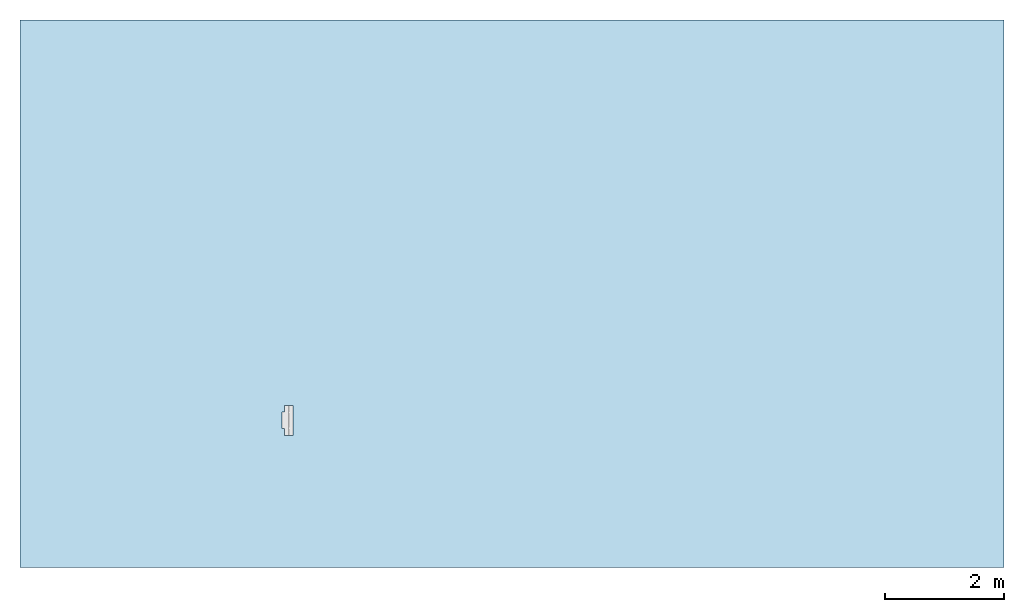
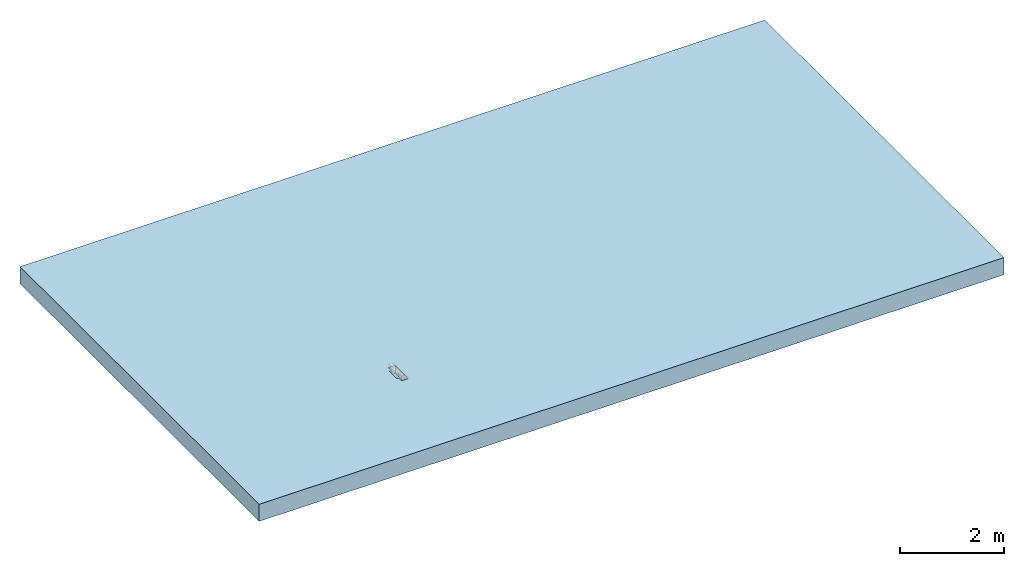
# One storey, part 1 of 2: 1 slab, 1 opening.
"""IFC2X3 building model written with IfcOpenShell, lengths in millimetres."""

from ifc_helpers import new_model, entity, si_unit, converted_unit, direction, frame, frame_2d, origin, place, context, subcontext, project, spatial, rectangle, extrude, faceted_brep, material, layer, layer_set, layer_usage, element, save


model = new_model("IFC2X3")

# Units and contexts
model_context = context("Model", 3, precision=1e-06, world=origin(), true_north=direction((2.0, 6.12303176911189e-17, 1.0)))
context_of_model = context(None, 3, precision=1e-06, world=origin(), true_north=direction((2.0, 6.12303176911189e-17, 1.0)))
body_context = subcontext(model_context, "Body", "Model", "MODEL_VIEW")
ifc_project = project(units=[si_unit("LENGTHUNIT", "METRE", prefix="MILLI"), si_unit("AREAUNIT", "SQUARE_METRE", prefix="MILLI"), si_unit("VOLUMEUNIT", "CUBIC_METRE", prefix="MILLI"), converted_unit("PLANEANGLEUNIT", "DEGREE", entity("IfcRatioMeasure", 0.0174532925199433), si_unit("PLANEANGLEUNIT", "RADIAN"), dimensions=[0, 0, 0, 0, 0, 0, 0]), si_unit("TIMEUNIT", "SECOND")], contexts=[model_context, context_of_model])

# Site, building, storey
site_placement = place(None, origin())
site = spatial("IfcSite", under=ifc_project, at=site_placement, Name="Default", CompositionType="ELEMENT")
building_placement = place(site_placement, origin())
building = spatial("IfcBuilding", under=site, at=building_placement, CompositionType="ELEMENT")
storey_placement = place(building_placement, origin())
storey = spatial("IfcBuildingStorey", under=building, at=storey_placement, Name="Level 1", CompositionType="ELEMENT", Elevation=0.0)

# Slab, opening
ifc_material = material(Name="Plant")
ifc_layer = layer(ifc_material, 400.0)
ifc_layer_set = layer_set([ifc_layer], Name="Floor:Generic Floor - 400mm")
ifc_layer_usage = layer_usage(ifc_layer_set, "AXIS3", "POSITIVE", 0.0)
slab_placement = place(storey_placement, frame((-17967.0691536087, -3738.31688706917, -400.0)))
slab = element("IfcSlab", 1, at=slab_placement, inside=storey, material=ifc_layer_usage, Name="Floor:Generic Floor - 400mm", ObjectType="Floor:Generic Floor - 400mm", PredefinedType="FLOOR", context=body_context, shape_type="SweptSolid", body=[
    extrude(rectangle(XDim=9180.0, YDim=16500.0, at=frame_2d((0.0, 0.0), x_axis=(0.0, -1.0))), frame((8250.0, 4590.0, 400.0), z_axis=(0.0, 0.0, -1.0), x_axis=(-1.0, 0.0, 0.0)), (0.0, 0.0, 1.0), 400.0),
])
opening_placement = place(slab_placement, frame((4390.17853291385, 2216.25782532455, 220.0)))
element("IfcOpeningElement", 2, at=opening_placement, cuts=slab, ObjectType="Recess", context=body_context, shape_type="Brep", body=[
    faceted_brep([(41.5400418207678, 500.0, 0.0), (41.5400418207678, 500.0, 180.0), (41.5400418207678, 390.350941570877, 180.0), (41.5400418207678, 390.350941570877, 0.0), (41.5400418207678, 110.0, 0.0), (41.5400418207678, 110.0, 180.0), (41.5400418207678, 0.0, 180.0), (41.5400418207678, 0.0, 0.0), (191.540041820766, 500.0, 180.0), (191.540041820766, 0.0, 180.0), (0.0, 390.350941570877, 0.0), (0.0, 110.0, 0.0), (191.540041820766, 500.0, 0.0), (191.540041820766, 0.0, 0.0), (0.0, 390.350941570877, 279.0), (0.0, 110.0, 279.0), (41.5400418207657, 390.350941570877, 279.0), (41.5400418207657, 110.0, 279.0)], [[[0, 1, 2]], [[2, 3, 0]], [[4, 5, 6]], [[6, 7, 4]], [[5, 8, 9]], [[2, 8, 5]], [[6, 5, 9]], [[8, 2, 1]], [[4, 10, 11]], [[4, 12, 3]], [[0, 3, 12]], [[7, 13, 4]], [[12, 4, 13]], [[10, 4, 3]], [[12, 8, 1]], [[1, 0, 12]], [[7, 6, 9]], [[9, 13, 7]], [[12, 9, 8]], [[9, 12, 13]], [[14, 15, 11]], [[11, 10, 14]], [[5, 16, 2]], [[16, 5, 17]], [[14, 16, 17]], [[17, 15, 14]], [[11, 15, 5]], [[17, 5, 15]], [[4, 11, 5]], [[14, 10, 2]], [[3, 2, 10]], [[16, 14, 2]]]),
])

save(model, "model.ifc")
